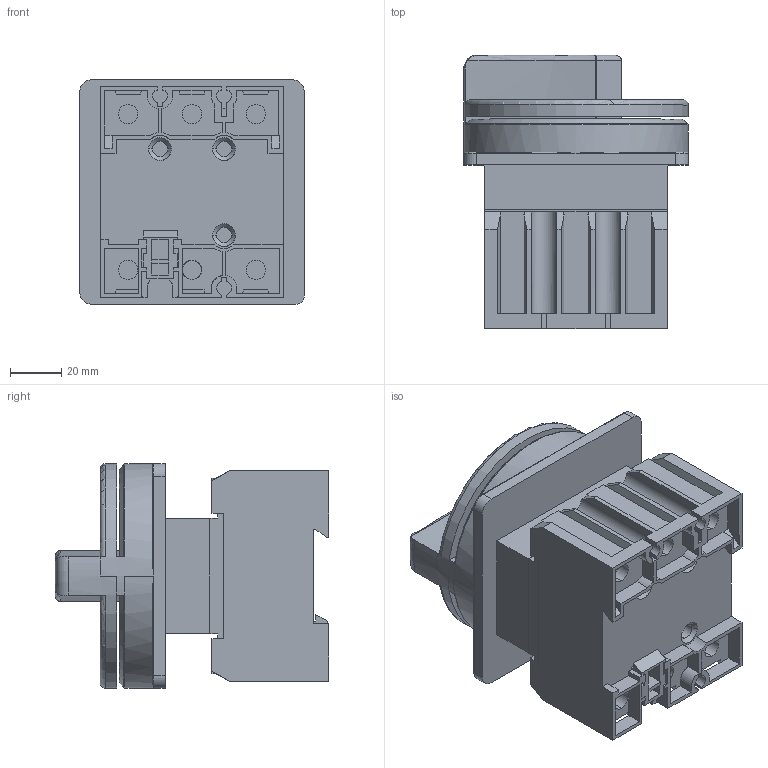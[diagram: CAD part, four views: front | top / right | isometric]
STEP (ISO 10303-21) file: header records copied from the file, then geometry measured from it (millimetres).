
FILE_DESCRIPTION((''),'2;1');
FILE_NAME('CDF1-100A_ASM','2023-08-25T',('xiaokai.shi'),(''),'PRO/ENGINEER BY PARAMETRIC TECHNOLOGY CORPORATION, 2015440','PRO/ENGINEER BY PARAMETRIC TECHNOLOGY CORPORATION, 2015440','');
FILE_SCHEMA(('CONFIG_CONTROL_DESIGN'));
Length unit declared in the file: millimetre
Products named in the file (1): CDF1-100A_ASM
Bounding box: 88 x 107 x 88 mm (x, y, z)
Surface area: 75516.5 mm2 (no closed solid volume)
Topology: 0 solids, 2 shells, 612 faces, 1786 edges, 1158 vertices
Faces by surface type: plane 487, cylinder 95, torus 16, cone 7, bspline 5, revolution 2
Entity records: 20943 total; most frequent: CARTESIAN_POINT 4738, ORIENTED_EDGE 3400, DIRECTION 3179, EDGE_CURVE 1786, VECTOR 1443, LINE 1443, VERTEX_POINT 1158, AXIS2_PLACEMENT_3D 867
